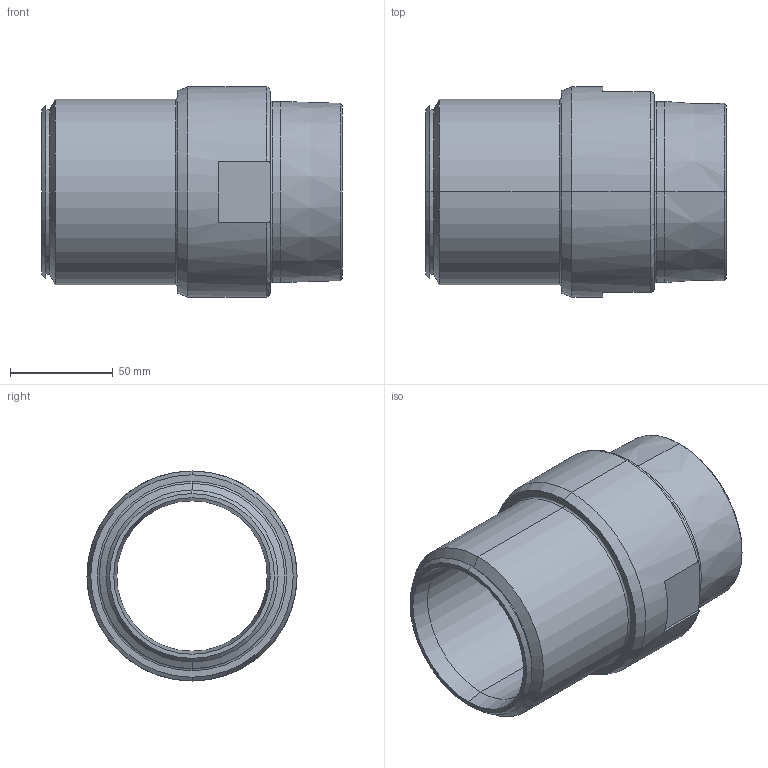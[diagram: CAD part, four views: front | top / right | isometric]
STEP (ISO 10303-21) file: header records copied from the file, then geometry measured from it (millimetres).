
FILE_DESCRIPTION (( 'STEP AP203' ), '1' );
FILE_NAME ('KP_C15-90M.step', '2011-08-08T12:04:25', ( '' ), ( '' ), 'SwSTEP 2.0', 'SolidWorks 2011', '' );
FILE_SCHEMA (( 'CONFIG_CONTROL_DESIGN' ));
Length unit declared in the file: millimetre
Products named in the file (1): KP_C15-90M
Bounding box: 146 x 102 x 102 mm (x, y, z)
Volume: 371262.1 mm3; surface area: 82466.6 mm2
Topology: 1 solids, 1 shells, 42 faces, 94 edges, 57 vertices
Faces by surface type: plane 13, cone 12, cylinder 10, torus 7
Entity records: 1291 total; most frequent: CARTESIAN_POINT 250, DIRECTION 220, ORIENTED_EDGE 188, EDGE_CURVE 94, AXIS2_PLACEMENT_3D 91, VERTEX_POINT 57, CIRCLE 48, EDGE_LOOP 47
